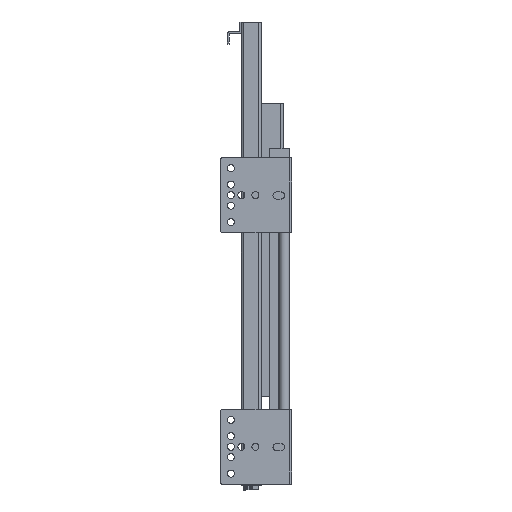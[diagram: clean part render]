
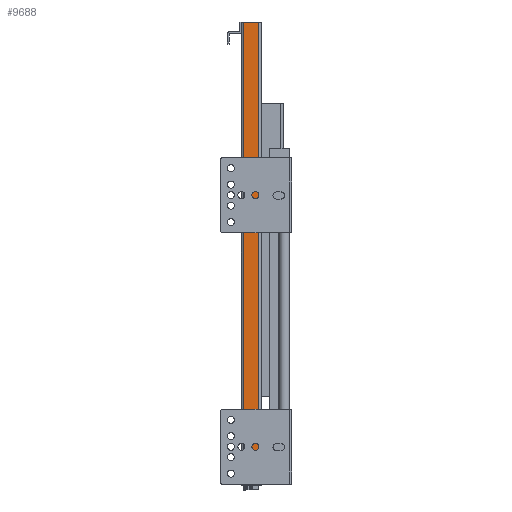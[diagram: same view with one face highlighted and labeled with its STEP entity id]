
A CAD part, left-side view. The second image highlights one B-rep face of the part: STEP entity #9688.
In plain terms, the highlighted planar face has unit normal (-1, 0, 0) as drawn and (1, 0, 0) by its records, which use the part's own axes.
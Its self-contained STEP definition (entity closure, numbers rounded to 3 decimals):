
#320=PLANE('',#10314);
#698=FACE_BOUND('',#3538,.T.);
#894=LINE('',#14156,#1950);
#898=LINE('',#14164,#1954);
#901=LINE('',#14170,#1957);
#904=LINE('',#14175,#1960);
#907=LINE('',#14185,#1963);
#908=LINE('',#14188,#1964);
#909=LINE('',#14190,#1965);
#910=LINE('',#14191,#1966);
#1950=VECTOR('',#11400,10.);
#1954=VECTOR('',#11406,10.);
#1957=VECTOR('',#11411,10.);
#1960=VECTOR('',#11416,10.);
#1963=VECTOR('',#11425,10.);
#1964=VECTOR('',#11428,10.);
#1965=VECTOR('',#11429,10.);
#1966=VECTOR('',#11430,10.);
#2970=FACE_OUTER_BOUND('',#3537,.T.);
#3537=EDGE_LOOP('',(#7065,#7066,#7067,#7068));
#3538=EDGE_LOOP('',(#7069,#7070,#7071,#7072));
#4513=VERTEX_POINT('',#14154);
#4514=VERTEX_POINT('',#14155);
#4517=VERTEX_POINT('',#14163);
#4519=VERTEX_POINT('',#14169);
#4521=VERTEX_POINT('',#14178);
#4524=VERTEX_POINT('',#14183);
#4525=VERTEX_POINT('',#14187);
#4526=VERTEX_POINT('',#14189);
#5494=EDGE_CURVE('',#4513,#4514,#894,.T.);
#5498=EDGE_CURVE('',#4514,#4517,#898,.T.);
#5501=EDGE_CURVE('',#4517,#4519,#901,.T.);
#5504=EDGE_CURVE('',#4519,#4513,#904,.T.);
#5509=EDGE_CURVE('',#4524,#4521,#907,.T.);
#5510=EDGE_CURVE('',#4524,#4525,#908,.T.);
#5511=EDGE_CURVE('',#4526,#4525,#909,.T.);
#5512=EDGE_CURVE('',#4521,#4526,#910,.T.);
#7065=ORIENTED_EDGE('',*,*,#5509,.F.);
#7066=ORIENTED_EDGE('',*,*,#5510,.T.);
#7067=ORIENTED_EDGE('',*,*,#5511,.F.);
#7068=ORIENTED_EDGE('',*,*,#5512,.F.);
#7069=ORIENTED_EDGE('',*,*,#5501,.T.);
#7070=ORIENTED_EDGE('',*,*,#5504,.T.);
#7071=ORIENTED_EDGE('',*,*,#5494,.T.);
#7072=ORIENTED_EDGE('',*,*,#5498,.T.);
#9688=ADVANCED_FACE('',(#2970,#698),#320,.T.);
#10314=AXIS2_PLACEMENT_3D('',#14186,#11426,#11427);
#11400=DIRECTION('',(0.,-1.,0.));
#11406=DIRECTION('',(0.,0.,1.));
#11411=DIRECTION('',(0.,1.,0.));
#11416=DIRECTION('',(0.,0.,-1.));
#11425=DIRECTION('',(0.,0.,1.));
#11426=DIRECTION('center_axis',(1.,0.,0.));
#11427=DIRECTION('ref_axis',(0.,1.,0.));
#11428=DIRECTION('',(0.,1.,0.));
#11429=DIRECTION('',(0.,0.,-1.));
#11430=DIRECTION('',(0.,1.,0.));
#14154=CARTESIAN_POINT('',(29.928,-3.375,-158.));
#14155=CARTESIAN_POINT('',(29.928,-10.387,-158.));
#14156=CARTESIAN_POINT('',(29.928,-10.188,-158.));
#14163=CARTESIAN_POINT('',(29.928,-10.387,-140.));
#14164=CARTESIAN_POINT('',(29.928,-10.387,-344.));
#14169=CARTESIAN_POINT('',(29.928,-3.375,-140.));
#14170=CARTESIAN_POINT('',(29.928,-13.694,-140.));
#14175=CARTESIAN_POINT('',(29.928,-3.375,-335.));
#14178=CARTESIAN_POINT('',(29.928,-15.,-134.));
#14183=CARTESIAN_POINT('',(29.928,-15.,-530.));
#14185=CARTESIAN_POINT('',(29.928,-15.,-530.));
#14186=CARTESIAN_POINT('Origin',(29.928,-17.,-530.));
#14187=CARTESIAN_POINT('',(29.928,-2.,-530.));
#14188=CARTESIAN_POINT('',(29.928,-17.,-530.));
#14189=CARTESIAN_POINT('',(29.928,-2.,-134.));
#14190=CARTESIAN_POINT('',(29.928,-2.,-530.));
#14191=CARTESIAN_POINT('',(29.928,-17.,-134.));
